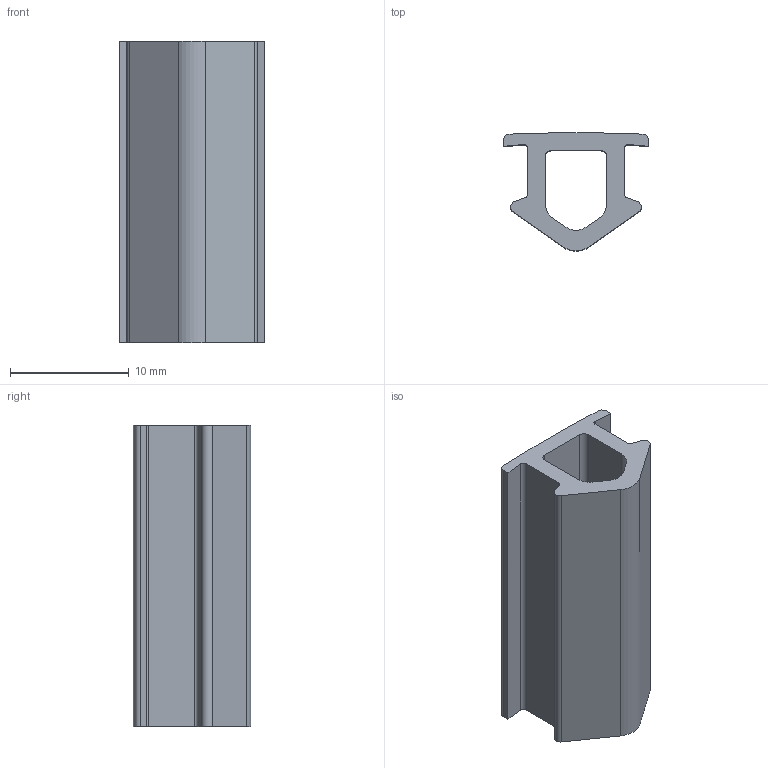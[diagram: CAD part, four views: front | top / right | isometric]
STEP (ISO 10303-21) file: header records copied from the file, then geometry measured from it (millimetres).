
FILE_DESCRIPTION((''),'2;1');
FILE_NAME('C:\Andys Backup Data\WEBSITE\DREAMWEAVER\MiniTec\Products\Edge_Cover_Slide_Sealing_Profiles\CAD\Step\22.1010 COVER PROFILE G.stp','2014-06-02T15:23:07',('Admin'),(''),'Autodesk Inventor 2012','Autodesk Inventor 2012','');
FILE_SCHEMA(('AUTOMOTIVE_DESIGN { 1 0 10303 214 1 1 1 1 }'));
Length unit declared in the file: inch
Products named in the file (1): 22.1010 COVER PROFILE G
Bounding box: 12.24 x 9.92 x 25.4 mm (x, y, z)
Volume: 1242.5 mm3; surface area: 1735.7 mm2
Topology: 1 solids, 1 shells, 32 faces, 90 edges, 60 vertices
Faces by surface type: plane 17, cylinder 15
Entity records: 1076 total; most frequent: DIRECTION 186, CARTESIAN_POINT 183, ORIENTED_EDGE 180, EDGE_CURVE 90, AXIS2_PLACEMENT_3D 63, VERTEX_POINT 60, VECTOR 60, LINE 60
